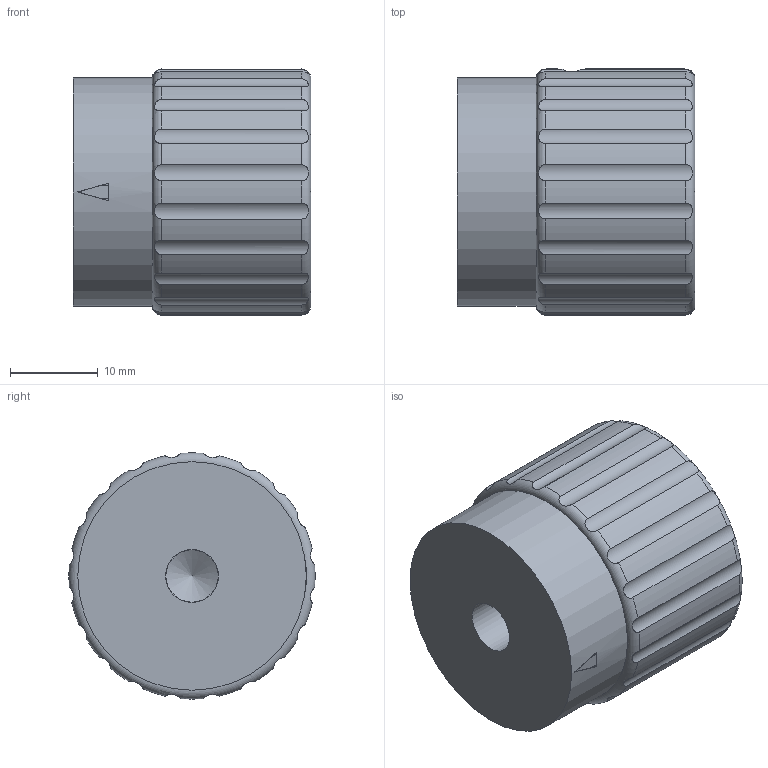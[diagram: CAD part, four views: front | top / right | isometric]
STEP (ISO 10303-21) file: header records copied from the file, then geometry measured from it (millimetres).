
FILE_DESCRIPTION( ( 'STEP AP203' ), '1' );
FILE_NAME( 'C:/Temp/Ganter_Step_05_03_2020/data/1_4/gn_436_1/gn_436_1_a/Stainless Steel-Control knob GN 436.1-28-B6-A-MT.stp', '2020-03-05T10:48:42', ( 'License CC BY-ND 4.0' ), ( 'CADENAS' ), ' ', 'PARTsolutions', ' ' );
FILE_SCHEMA( ( 'CONFIG_CONTROL_DESIGN' ) );
Length unit declared in the file: millimetre
Products named in the file (1): _Stainless Steel-Control knob GN 436.1-28-B6-A-MT
Bounding box: 27 x 27.99 x 27.99 mm (x, y, z)
Volume: 15003.5 mm3; surface area: 3996.4 mm2
Topology: 1 solids, 1 shells, 69 faces, 188 edges, 125 vertices
Faces by surface type: cylinder 46, plane 18, cone 3, torus 2
Full cylindrical faces by diameter (mm): 3.242 x2, 5.96 x1, 6 x1, 26 x1
Entity records: 2816 total; most frequent: CARTESIAN_POINT 1143, ORIENTED_EDGE 342, DIRECTION 320, EDGE_CURVE 171, AXIS2_PLACEMENT_3D 124, VERTEX_POINT 119, EDGE_LOOP 83, FACE_OUTER_BOUND 76
